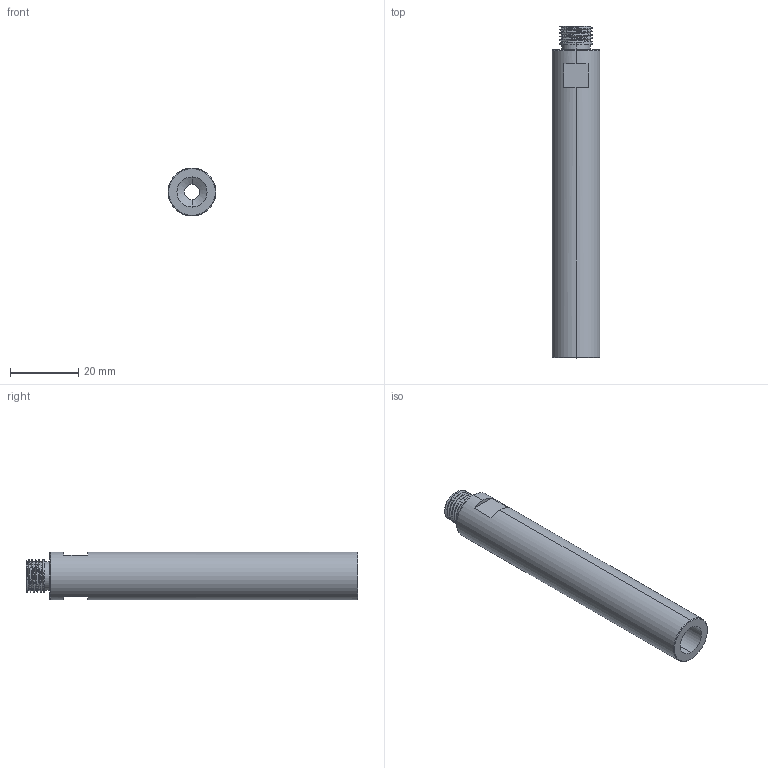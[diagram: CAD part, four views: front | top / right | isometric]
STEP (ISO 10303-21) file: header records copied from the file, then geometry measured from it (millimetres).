
FILE_DESCRIPTION (( 'STEP AP203' ), '1' );
FILE_NAME ('SMBY1497G18.STEP', '2023-12-04T09:38:20', ( '微软用户' ), ( '微软中国' ), 'SwSTEP 2.0', 'SolidWorks 2019', '' );
FILE_SCHEMA (( 'CONFIG_CONTROL_DESIGN' ));
Length unit declared in the file: millimetre
Products named in the file (1): SMBY1497G18
Bounding box: 14 x 97 x 14 mm (x, y, z)
Volume: 9001.5 mm3; surface area: 7049.5 mm2
Topology: 1 solids, 1 shells, 47 faces, 112 edges, 70 vertices
Faces by surface type: cylinder 20, plane 12, cone 8, torus 4, bspline 3
Entity records: 2701 total; most frequent: CARTESIAN_POINT 1582, ORIENTED_EDGE 224, DIRECTION 219, EDGE_CURVE 112, AXIS2_PLACEMENT_3D 89, VERTEX_POINT 70, EDGE_LOOP 52, FACE_OUTER_BOUND 47
